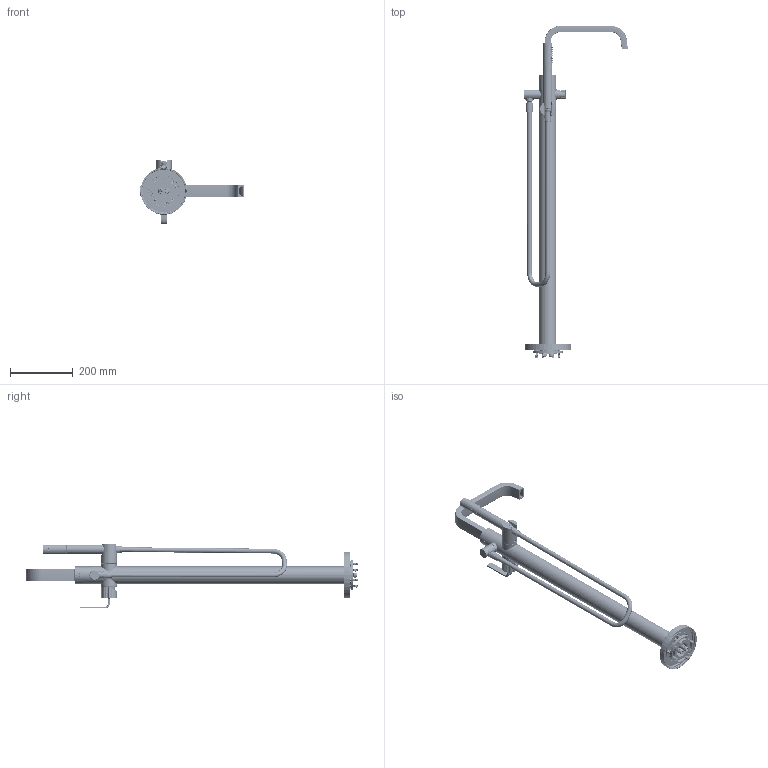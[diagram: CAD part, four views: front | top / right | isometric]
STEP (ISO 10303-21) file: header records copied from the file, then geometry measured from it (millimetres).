
FILE_DESCRIPTION (( 'STEP AP203' ), '1' );
FILE_NAME ('sku_s578series_stp.STEP', '2026-01-26T09:21:59', ( '' ), ( '' ), 'SwSTEP 2.0', 'SolidWorks 2025', '' );
FILE_SCHEMA (( 'CONFIG_CONTROL_DESIGN' ));
Length unit declared in the file: inch
Products named in the file (78): 193359_193359_BREP_Part62_Part177; 151836SERIES_151836series_FBIN_MM_ASSY_Assem30; 195300_FBIN_MM_ASSY_FBIN_MM_ASSY_Assem25; 191513SERIES_191513series_FBIN_MM_ASSY_Assem21; 219463SERIES_Part1_Part48_Part163; 193243_193243_BREP_Part57_Part172; 98141_98141_BREP_Part51_Part166; DUP_188105_shell_188105_SHELL_BREP_Part29_Part144; SKU_S578SERIES(2)_FBIN_MM_ASSY_Assem29; 106169_106169_BREP_Part66_Part181; 216055_HANDLE NUT_Part16_Part136; 193022SERIES_193022SERIES_Part25_Part140; t10105-001_T10105-001_BREP_Part31_Part146; 219462SERIES_Part3_Part47_Part162; 193324_193324_Part26_Part141; 191509_191509_BREP_Part3_Part123; 192846_192846_BREP_Part13_Part133; sku_s578series_stp; 188057_188057_BREP_Part6_Part126; t10105-004_comp_T10105-004_COMP_BREP_Part36_Part151; 191530_191530_BREP_Part53_Part168; 190195_190195_BREP_Part11_Part131; 219464_Part2_Part49_Part164; Part70_Part70_Part189; 99924_99924_BREP_Part63_Part178; 151836-4_151836-4_Part20_Part188; 198370_198370_Part56_Part171; 193572_193572_BREP_Part4_Part124; 188161SERIES_188161SERIES_FBIN_MM_ASSY_Assem28; 151836-3_151836-3_Part19_Part186; 188066_188066_FBIN_MM_ASSY_Assem22; 188658_188658_Part24_Part139; 191519_191519_Part64_Part179; 191514_191514_BREP_Part5_Part125; 193019SERIES_193019SERIES_Part59_Part174; 40000365_40000365_BREP_Part35_Part150; 154903_154903_BREP_Part8_Part128; 40000911_40000911_BREP_Part34_Part149; 188105_188105_FBIN_MM_ASSY_Assem26; 216054SERIES_HANDLE BASE, TUB FILLER_Part15_Part135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
Assembly tree (107 placements, depth 5):
  sku_s578series_stp
    SKU_S578SERIES(2)_FBIN_MM_ASSY_Assem29
      191513SERIES_191513series_FBIN_MM_ASSY_Assem21
        191509_191509_BREP_Part3_Part123
        193572_193572_BREP_Part4_Part124
        191514_191514_BREP_Part5_Part125
      188066_188066_FBIN_MM_ASSY_Assem22
        188057_188057_BREP_Part6_Part126
        188056_188056_BREP_Part7_Part127
        154903_154903_BREP_Part8_Part128  x2
        193047_193047_BREP_Part9_Part129
        154901_154901_BREP_Part10_Part130
        190195_190195_BREP_Part11_Part131
        99904_99904_BREP_Part12_Part132
        192846_192846_BREP_Part13_Part133
      216059SERIES_216059SERIES_FBIN_MM_ASSY_Assem23
        216053SERIES_HANDLE LEVER_Part14_Part134
        216054SERIES_HANDLE BASE, TUB FILLER_Part15_Part135
        216055_HANDLE NUT_Part16_Part136
      188660_Unexplode_FBIN_MM_ASSY_Assem24  x2
        188657_188657_BREP_Part22_Part137
        188659_188659_Part23_Part138
        188658_188658_Part24_Part139
      195300_FBIN_MM_ASSY_FBIN_MM_ASSY_Assem25
        193022SERIES_193022SERIES_Part25_Part140
        193324_193324_Part26_Part141
        193780_193780_Part27_Part142
        193779_193779_Part28_Part143  x4
      188161SERIES_188161SERIES_FBIN_MM_ASSY_Assem28
        188105_188105_FBIN_MM_ASSY_Assem26
          DUP_188105_shell_188105_SHELL_BREP_Part29_Part144
          DUP_188105_o-ring_188105_O-RING_BREP_Part30_Part145
        179397_179397_FBIN_MM_ASSY_Assem27  x2
          t10105-001_T10105-001_BREP_Part31_Part146
          DUP_T10105-003_T10105-003_Part32_Part147
          DUP_T10105-002_T10105-002_Part33_Part148
          40000911_40000911_BREP_Part34_Part149
          40000365_40000365_BREP_Part35_Part150
          t10105-004_comp_T10105-004_COMP_BREP_Part36_Part151
        170308_170308_BREP_Part37_Part152
        p51204-zlf_4_P51204-ZLF_4_BREP_Part38_Part153
        40000139_3_40000139_3_BREP_Part39_Part154
        p51202-001-new_127_P51202-001-NEW_127_BREP_Part40_Part155
        p51202-002-new_161_P51202-002-NEW_161_BREP_Part41_Part156
        p51202-003-new2_139_P51202-003-NEW2_139_BREP_Part42_Part157
        p51200-006_2_P51200-006_2_BREP_Part43_Part158
        40000020_4_40000020_4_BREP_Part44_Part159  x2
        30100124_2_30100124_2_BREP_Part45_Part160  x2
        p51200-003__2_P51200-003__2_BREP_Part46_Part161  x2
      219462SERIES_Part3_Part47_Part162
      219463SERIES_Part1_Part48_Part163
      219464_Part2_Part49_Part164
      107934_107934_Part50_Part165
      98141_98141_BREP_Part51_Part166
      100976_100976_BREP_Part52_Part167
      191530_191530_BREP_Part53_Part168
      193018SERIES_193018SERIES_Part54_Part169
      216032SERIES_DIVERTER KNOB, TUB FILLER_Part55_Part170
      198370_198370_Part56_Part171
      193243_193243_BREP_Part57_Part172
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Bounding box: 332.19 x 1060.64 x 207.52 mm (x, y, z)
Volume: 1551604.4 mm3; surface area: 944808.4 mm2
Topology: 105 solids, 105 shells, 8599 faces, 22203 edges, 13784 vertices
Faces by surface type: cylinder 2814, bspline 1773, plane 1677, torus 1086, cone 1069, sphere 180
Entity records: 468513 total; most frequent: CARTESIAN_POINT 300396, ORIENTED_EDGE 36374, DIRECTION 29428, EDGE_CURVE 18187, AXIS2_PLACEMENT_3D 12024, VERTEX_POINT 11422, EDGE_LOOP 7585, ADVANCED_FACE 7067
